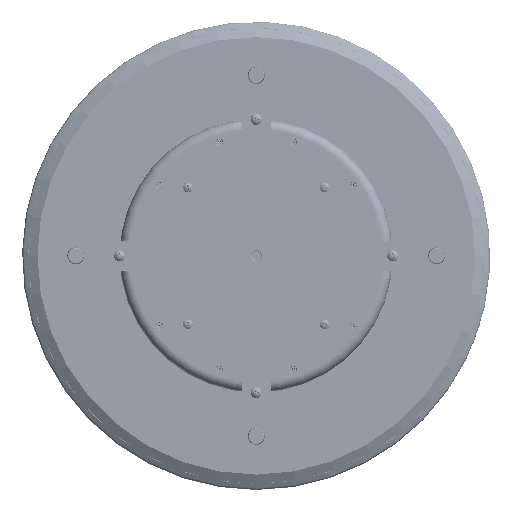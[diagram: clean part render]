
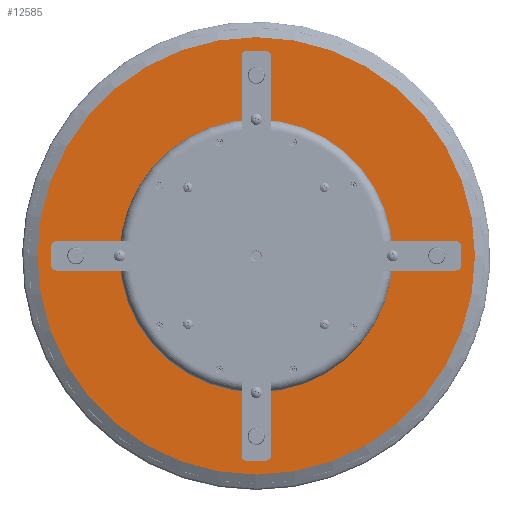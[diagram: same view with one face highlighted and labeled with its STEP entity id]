
A CAD part, front view. The second image highlights one B-rep face of the part: STEP entity #12585.
In plain terms, the highlighted planar face has unit normal (0, -1, 0).
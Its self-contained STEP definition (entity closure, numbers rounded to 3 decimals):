
#1580=CIRCLE('',#14606,11.213);
#2548=FACE_OUTER_BOUND('',#3406,.T.);
#3406=EDGE_LOOP('',(#10655));
#6038=VERTEX_POINT('',#30580);
#7634=EDGE_CURVE('',#6038,#6038,#1580,.T.);
#10655=ORIENTED_EDGE('',*,*,#7634,.T.);
#11975=PLANE('',#14609);
#12585=ADVANCED_FACE('',(#2548),#11975,.F.);
#14606=AXIS2_PLACEMENT_3D('',#30581,#17609,#17610);
#14609=AXIS2_PLACEMENT_3D('',#30586,#17616,#17617);
#17609=DIRECTION('center_axis',(0.,-1.,0.));
#17610=DIRECTION('ref_axis',(0.,0.,1.));
#17616=DIRECTION('center_axis',(0.,1.,0.));
#17617=DIRECTION('ref_axis',(0.,0.,1.));
#30580=CARTESIAN_POINT('',(0.,0.,-11.213));
#30581=CARTESIAN_POINT('Origin',(0.,0.,0.));
#30586=CARTESIAN_POINT('Origin',(0.,0.,0.));
